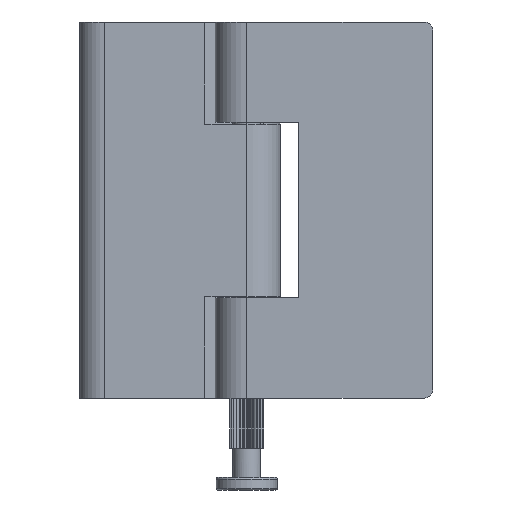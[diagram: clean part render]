
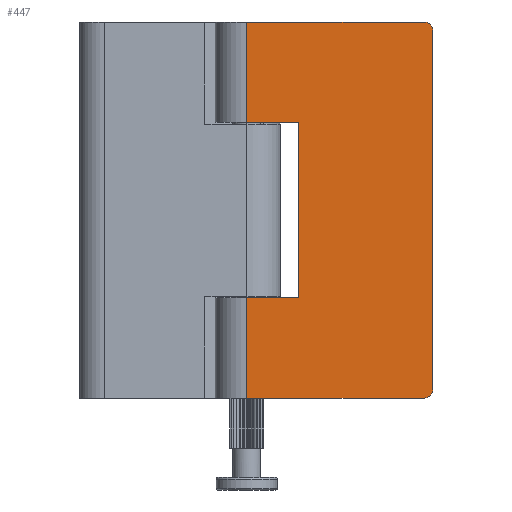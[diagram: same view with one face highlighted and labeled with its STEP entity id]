
A CAD part, front view. The second image highlights one B-rep face of the part: STEP entity #447.
In plain terms, the highlighted planar face has unit normal (0, -1, 0).
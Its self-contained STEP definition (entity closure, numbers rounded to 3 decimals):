
#21 = ORIENTED_EDGE ( 'NONE', *, *, #998, .T. ) ;
#349 = CARTESIAN_POINT ( 'NONE',  ( -0.421, 1.605, 22.5 ) ) ;
#355 = DIRECTION ( 'NONE',  ( 1., 0., 0. ) ) ;
#423 = DIRECTION ( 'NONE',  ( 0., 0., -1. ) ) ;
#447 = ADVANCED_FACE ( 'NONE', ( #2828 ), #4942, .F. ) ;
#606 = DIRECTION ( 'NONE',  ( 1., 0., 0. ) ) ;
#743 = VECTOR ( 'NONE', #751, 1000. ) ;
#751 = DIRECTION ( 'NONE',  ( 1., 0., 0. ) ) ;
#839 = CARTESIAN_POINT ( 'NONE',  ( -22.671, 1.605, 22.5 ) ) ;
#934 = LINE ( 'NONE', #4317, #3023 ) ;
#942 = DIRECTION ( 'NONE',  ( 0., -1., 0. ) ) ;
#998 = EDGE_CURVE ( 'NONE', #1711, #4087, #1617, .T. ) ;
#1038 = CARTESIAN_POINT ( 'NONE',  ( -21.671, 1.605, 22.5 ) ) ;
#1044 = EDGE_CURVE ( 'NONE', #2422, #1711, #3331, .T. ) ;
#1076 = CARTESIAN_POINT ( 'NONE',  ( -22.671, 1.605, 22.5 ) ) ;
#1164 = VECTOR ( 'NONE', #423, 1000. ) ;
#1200 = DIRECTION ( 'NONE',  ( 0., 0., 1. ) ) ;
#1219 = DIRECTION ( 'NONE',  ( 0., 0., -1. ) ) ;
#1322 = VERTEX_POINT ( 'NONE', #5395 ) ;
#1335 = ORIENTED_EDGE ( 'NONE', *, *, #2843, .F. ) ;
#1353 = EDGE_CURVE ( 'NONE', #1322, #2071, #4213, .T. ) ;
#1358 = LINE ( 'NONE', #4019, #4430 ) ;
#1446 = VECTOR ( 'NONE', #355, 1000. ) ;
#1533 = CARTESIAN_POINT ( 'NONE',  ( -0.421, 1.605, -22.5 ) ) ;
#1539 = CARTESIAN_POINT ( 'NONE',  ( -6.671, 1.605, 10.5 ) ) ;
#1617 = LINE ( 'NONE', #839, #1164 ) ;
#1694 = CARTESIAN_POINT ( 'NONE',  ( -0.421, 1.605, 22.5 ) ) ;
#1703 = CARTESIAN_POINT ( 'NONE',  ( -22.671, 1.605, 22.5 ) ) ;
#1711 = VERTEX_POINT ( 'NONE', #3591 ) ;
#1731 = AXIS2_PLACEMENT_3D ( 'NONE', #4355, #942, #2288 ) ;
#1834 = ORIENTED_EDGE ( 'NONE', *, *, #5382, .F. ) ;
#1968 = EDGE_CURVE ( 'NONE', #2416, #5430, #934, .T. ) ;
#2011 = AXIS2_PLACEMENT_3D ( 'NONE', #1076, #5262, #3123 ) ;
#2014 = CARTESIAN_POINT ( 'NONE',  ( -6.671, 1.605, -10.5 ) ) ;
#2045 = DIRECTION ( 'NONE',  ( 1., 0., 0. ) ) ;
#2071 = VERTEX_POINT ( 'NONE', #1533 ) ;
#2120 = VECTOR ( 'NONE', #1219, 1000. ) ;
#2241 = ORIENTED_EDGE ( 'NONE', *, *, #3148, .T. ) ;
#2264 = VECTOR ( 'NONE', #2045, 1000. ) ;
#2288 = DIRECTION ( 'NONE',  ( 0., 0., 1. ) ) ;
#2300 = EDGE_LOOP ( 'NONE', ( #21, #2241, #4746, #1834, #1335, #4220, #3666, #2327, #4271, #4145 ) ) ;
#2327 = ORIENTED_EDGE ( 'NONE', *, *, #5398, .F. ) ;
#2416 = VERTEX_POINT ( 'NONE', #1539 ) ;
#2422 = VERTEX_POINT ( 'NONE', #1038 ) ;
#2521 = CARTESIAN_POINT ( 'NONE',  ( -22.671, 1.605, -22.5 ) ) ;
#2617 = CARTESIAN_POINT ( 'NONE',  ( -0.421, 1.605, -10.5 ) ) ;
#2699 = EDGE_CURVE ( 'NONE', #2416, #4450, #1358, .T. ) ;
#2828 = FACE_OUTER_BOUND ( 'NONE', #2300, .T. ) ;
#2843 = EDGE_CURVE ( 'NONE', #5430, #3881, #5369, .T. ) ;
#2957 = EDGE_CURVE ( 'NONE', #2422, #3612, #5485, .T. ) ;
#3023 = VECTOR ( 'NONE', #4768, 1000. ) ;
#3059 = AXIS2_PLACEMENT_3D ( 'NONE', #3410, #5125, #1200 ) ;
#3123 = DIRECTION ( 'NONE',  ( 0., 0., 1. ) ) ;
#3148 = EDGE_CURVE ( 'NONE', #4087, #1322, #4165, .T. ) ;
#3159 = CARTESIAN_POINT ( 'NONE',  ( -0.421, 1.605, 22.5 ) ) ;
#3210 = CARTESIAN_POINT ( 'NONE',  ( -0.421, 1.605, 10.5 ) ) ;
#3331 = CIRCLE ( 'NONE', #3059, 1. ) ;
#3410 = CARTESIAN_POINT ( 'NONE',  ( -21.671, 1.605, 21.5 ) ) ;
#3591 = CARTESIAN_POINT ( 'NONE',  ( -22.671, 1.605, 21.5 ) ) ;
#3612 = VERTEX_POINT ( 'NONE', #3159 ) ;
#3666 = ORIENTED_EDGE ( 'NONE', *, *, #2699, .T. ) ;
#3769 = CARTESIAN_POINT ( 'NONE',  ( -6.671, 1.605, -10.5 ) ) ;
#3881 = VERTEX_POINT ( 'NONE', #2617 ) ;
#3955 = CARTESIAN_POINT ( 'NONE',  ( -22.671, 1.605, -21.5 ) ) ;
#4019 = CARTESIAN_POINT ( 'NONE',  ( -6.671, 1.605, 10.5 ) ) ;
#4087 = VERTEX_POINT ( 'NONE', #3955 ) ;
#4145 = ORIENTED_EDGE ( 'NONE', *, *, #1044, .T. ) ;
#4165 = CIRCLE ( 'NONE', #1731, 1. ) ;
#4213 = LINE ( 'NONE', #2521, #1446 ) ;
#4220 = ORIENTED_EDGE ( 'NONE', *, *, #1968, .F. ) ;
#4271 = ORIENTED_EDGE ( 'NONE', *, *, #2957, .F. ) ;
#4317 = CARTESIAN_POINT ( 'NONE',  ( -6.671, 1.605, 10.5 ) ) ;
#4355 = CARTESIAN_POINT ( 'NONE',  ( -21.671, 1.605, -21.5 ) ) ;
#4430 = VECTOR ( 'NONE', #606, 1000. ) ;
#4450 = VERTEX_POINT ( 'NONE', #3210 ) ;
#4661 = LINE ( 'NONE', #349, #4818 ) ;
#4746 = ORIENTED_EDGE ( 'NONE', *, *, #1353, .T. ) ;
#4768 = DIRECTION ( 'NONE',  ( 0., 0., -1. ) ) ;
#4818 = VECTOR ( 'NONE', #5476, 1000. ) ;
#4942 = PLANE ( 'NONE',  #2011 ) ;
#5114 = LINE ( 'NONE', #1694, #2120 ) ;
#5125 = DIRECTION ( 'NONE',  ( 0., -1., 0. ) ) ;
#5262 = DIRECTION ( 'NONE',  ( 0., 1., 0. ) ) ;
#5369 = LINE ( 'NONE', #2014, #743 ) ;
#5382 = EDGE_CURVE ( 'NONE', #3881, #2071, #4661, .T. ) ;
#5395 = CARTESIAN_POINT ( 'NONE',  ( -21.671, 1.605, -22.5 ) ) ;
#5398 = EDGE_CURVE ( 'NONE', #3612, #4450, #5114, .T. ) ;
#5430 = VERTEX_POINT ( 'NONE', #3769 ) ;
#5476 = DIRECTION ( 'NONE',  ( 0., 0., -1. ) ) ;
#5485 = LINE ( 'NONE', #1703, #2264 ) ;
